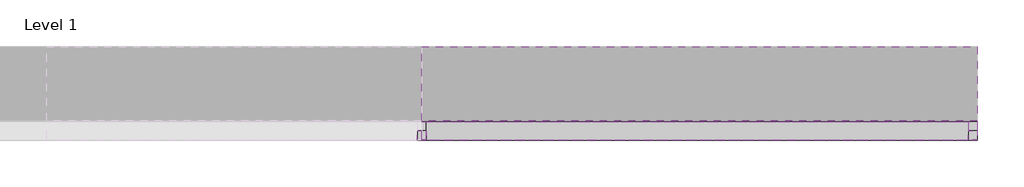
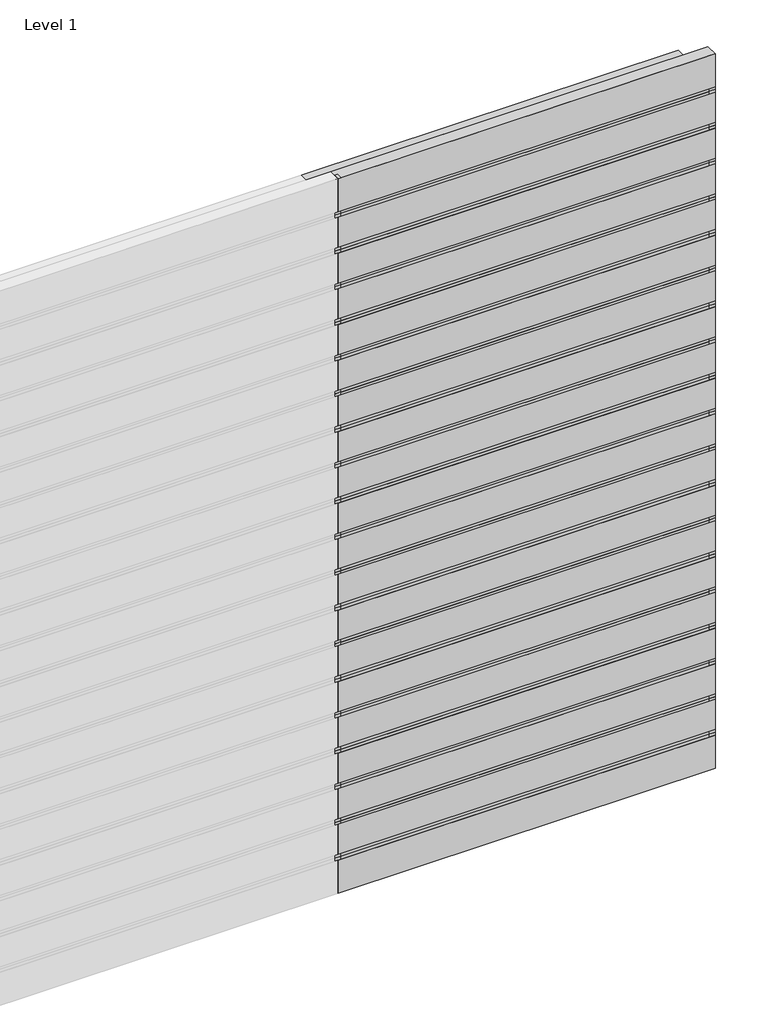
# One storey, part 2 of 2: 49 members, 40 plates.
"""IFC4 building model written with IfcOpenShell, lengths in millimetres."""

import ifcopenshell
import ifcopenshell.guid

model = None  # the IFC model being written
_history = None  # IfcOwnerHistory: only IFC2X3 demands one
_inside = {}  # id of a spatial element -> (the spatial element, [elements in it])
_under = {}  # id of a project, library or spatial element -> (it, [spatial elements below it])
_declared = {}  # id of a project -> (the project, [libraries it declares])
_typed = {}  # id of a type object -> (the type object, [elements of that type])
_made_of = {}  # id of a material, layer set ... -> (it, [elements and type objects made of it])


def new_model(schema):
    """Start an empty IFC model of exactly this schema.

    Asked for "IFC4X3", IfcOpenShell would pick the latest addendum, in which some entities
    have other attributes; the version numbers below select the first issue.
    IFC2X3 requires an IfcOwnerHistory on every rooted entity: one is made here for all.
    """
    global model, _history
    if schema == "IFC4X3":
        model = ifcopenshell.file(schema_version=(4, 3, 0, 0))
    else:
        model = ifcopenshell.file(schema=schema)
    _inside.clear()
    _under.clear()
    _declared.clear()
    _typed.clear()
    _made_of.clear()
    _history = None
    if model.schema == "IFC2X3":
        org = make("IfcOrganization", Name="unknown")
        user = make(
            "IfcPersonAndOrganization",
            ThePerson=make("IfcPerson", FamilyName="unknown"),
            TheOrganization=org,
        )
        app = make(
            "IfcApplication",
            ApplicationDeveloper=org,
            Version="unknown",
            ApplicationFullName="unknown",
            ApplicationIdentifier="unknown",
        )
        _history = make(
            "IfcOwnerHistory",
            OwningUser=user,
            OwningApplication=app,
            ChangeAction="ADDED",
            CreationDate=0,
        )
    return model


def make(cls, **values):
    """One entity of the class cls with the attributes given. An attribute that is None is left unset."""
    return model.create_entity(
        cls, **{name: value for name, value in values.items() if value is not None}
    )


def rooted(cls, **values):
    """An entity with a GlobalId (a new one), such as an element, a storey or a relation."""
    return make(cls, GlobalId=ifcopenshell.guid.new(), OwnerHistory=_history, **values)


def si_unit(unit_type, name, prefix=None):
    """IfcSIUnit, for example si_unit("LENGTHUNIT", "METRE", prefix="MILLI")."""
    return make("IfcSIUnit", UnitType=unit_type, Prefix=prefix, Name=name)


def assignment(units):
    """IfcUnitAssignment: the units of a project."""
    return None if units is None else make("IfcUnitAssignment", Units=units)


def point(xyz):
    """IfcCartesianPoint."""
    return None if xyz is None else make("IfcCartesianPoint", Coordinates=xyz)


def direction(xyz):
    """IfcDirection."""
    return None if xyz is None else make("IfcDirection", DirectionRatios=xyz)


def frame(location, z_axis=None, x_axis=None):
    """IfcAxis2Placement3D, a coordinate frame: its origin and axes. An axis left out is left unset."""
    return make(
        "IfcAxis2Placement3D",
        Location=point(location),
        Axis=direction(z_axis),
        RefDirection=direction(x_axis),
    )


def origin():
    """The frame at (0, 0, 0) with its axes left unset."""
    return frame((0.0, 0.0, 0.0))


def origin_with_axes():
    """The frame at (0, 0, 0) with the z axis (0, 0, 1) and the x axis (1, 0, 0) written out."""
    return frame((0.0, 0.0, 0.0), z_axis=(0.0, 0.0, 1.0), x_axis=(1.0, 0.0, 0.0))


def place(relative_to, where):
    """IfcLocalPlacement: puts the frame where relative to a parent placement (None: the world)."""
    return make(
        "IfcLocalPlacement", PlacementRelTo=relative_to, RelativePlacement=where
    )


def context(
    kind, dimensions, precision=None, world=None, true_north=None, identifier=None
):
    """IfcGeometricRepresentationContext, for example the 3D "Model" context."""
    return make(
        "IfcGeometricRepresentationContext",
        ContextIdentifier=identifier,
        ContextType=kind,
        CoordinateSpaceDimension=dimensions,
        Precision=precision,
        WorldCoordinateSystem=world,
        TrueNorth=true_north,
    )


def project(units=None, contexts=None):
    """IfcProject with its units and contexts."""
    return rooted(
        "IfcProject",
        Name="project",
        RepresentationContexts=contexts,
        UnitsInContext=assignment(units),
    )


def spatial(cls, under=None, at=None, **own):
    """A site, building, storey or space (cls), placed at a placement, below another one or the project."""
    s = rooted(cls, ObjectPlacement=at, **own)
    if under is not None:
        _under.setdefault(under.id(), (under, []))[1].append(s)
    return s


def polyline(points):
    """IfcPolyline through the points."""
    return make("IfcPolyline", Points=[point(p) for p in points])


def outline(outer, holes=None, kind="AREA"):
    """IfcArbitraryClosedProfileDef: a profile drawn as a closed curve; with holes, ...WithVoids."""
    if holes is None:
        return make("IfcArbitraryClosedProfileDef", ProfileType=kind, OuterCurve=outer)
    return make(
        "IfcArbitraryProfileDefWithVoids",
        ProfileType=kind,
        OuterCurve=outer,
        InnerCurves=holes,
    )


def extrude(swept, where, along, depth):
    """IfcExtrudedAreaSolid: the profile swept, set in the frame where, extruded along a direction by depth."""
    return make(
        "IfcExtrudedAreaSolid",
        SweptArea=swept,
        Position=where,
        ExtrudedDirection=direction(along),
        Depth=depth,
    )


def shape(context_of_items, identifier, shape_type, items):
    """IfcShapeRepresentation: the items that make up one representation, for example the "Body"."""
    return make(
        "IfcShapeRepresentation",
        ContextOfItems=context_of_items,
        RepresentationIdentifier=identifier,
        RepresentationType=shape_type,
        Items=items,
    )


def source(mapping_origin, context_of_items, identifier, shape_type, items):
    """IfcRepresentationMap: a shape defined once, which mapped items show again and again."""
    return make(
        "IfcRepresentationMap",
        MappingOrigin=mapping_origin,
        MappedRepresentation=shape(context_of_items, identifier, shape_type, items),
    )


def transform(
    local_origin,
    x_axis=None,
    y_axis=None,
    z_axis=None,
    scale=None,
    scale2=None,
    scale3=None,
    uniform=True,
):
    """IfcCartesianTransformationOperator3D, or its non-uniform kind. x_axis, y_axis, z_axis: its Axis1, 2, 3."""
    if uniform:
        return make(
            "IfcCartesianTransformationOperator3D",
            Axis1=direction(x_axis),
            Axis2=direction(y_axis),
            LocalOrigin=point(local_origin),
            Scale=scale,
            Axis3=direction(z_axis),
        )
    return make(
        "IfcCartesianTransformationOperator3DnonUniform",
        Axis1=direction(x_axis),
        Axis2=direction(y_axis),
        LocalOrigin=point(local_origin),
        Scale=scale,
        Axis3=direction(z_axis),
        Scale2=scale2,
        Scale3=scale3,
    )


def mapped(mapping_source, mapping_target):
    """IfcMappedItem: shows the shape of a source again, moved by a transform."""
    return make(
        "IfcMappedItem", MappingSource=mapping_source, MappingTarget=mapping_target
    )


def made_of(thing, what):
    """Note that an element or type object is made of a material, layer set ...; save() writes the relation."""
    if what is not None:
        _made_of.setdefault(what.id(), (what, []))[1].append(thing)
    return thing


def element(
    cls,
    number,
    at=None,
    inside=None,
    cuts=None,
    type_object=None,
    material=None,
    context=None,
    identifier="Body",
    shape_type=None,
    held_by="IfcProductDefinitionShape",
    body=None,
    shapes=None,
    **own,
):
    """One element of the class cls, such as IfcWall. Its Tag is "e" and its number.

    at: its placement. inside: the storey or other place that contains it. cuts: it is an
    opening in that element (IfcRelVoidsElement). A single representation is given by context,
    identifier, shape_type and body (its items); several are given by shapes. held_by: the class
    of the entity that holds the representations. save() writes the other relations.
    """
    e = rooted(cls, Tag="e%d" % number, ObjectPlacement=at, **own)
    if body is not None:
        shapes = [shape(context, identifier, shape_type, body)]
    if shapes is not None:
        e.Representation = make(held_by, Representations=shapes)
    if inside is not None:
        _inside.setdefault(inside.id(), (inside, []))[1].append(e)
    if cuts is not None:
        rooted(
            "IfcRelVoidsElement", RelatingBuildingElement=cuts, RelatedOpeningElement=e
        )
    if type_object is not None:
        _typed.setdefault(type_object.id(), (type_object, []))[1].append(e)
    return made_of(e, material)


def aggregate(whole, parts):
    """IfcRelAggregates: a whole, such as a stair, and the parts it consists of."""
    return rooted("IfcRelAggregates", RelatingObject=whole, RelatedObjects=parts)


def save(model, path):
    """Write the relations noted so far, then the file.

    IfcRelAggregates (storeys below a building ...), IfcRelContainedInSpatialStructure (elements
    in a storey), IfcRelDefinesByType, IfcRelAssociatesMaterial and IfcRelDeclares: one each for
    every whole, place, type object, material and project.
    """
    for whole, parts in _under.values():
        aggregate(whole, parts)
    for where, things in _inside.values():
        rooted(
            "IfcRelContainedInSpatialStructure",
            RelatedElements=things,
            RelatingStructure=where,
        )
    for kind, things in _typed.values():
        rooted("IfcRelDefinesByType", RelatedObjects=things, RelatingType=kind)
    for what, things in _made_of.values():
        rooted("IfcRelAssociatesMaterial", RelatedObjects=things, RelatingMaterial=what)
    for by, libraries in _declared.values():
        rooted("IfcRelDeclares", RelatingContext=by, RelatedDefinitions=libraries)
    model.write(path)


def rectangular_mullion_e1254653(model_context):
    return source(origin(), model_context, "Body", "SweptSolid", [
        extrude(outline(polyline([(-24.0, 55.0), (-24.0, 455.0), (24.0, 455.0), (24.0, 55.0), (-24.0, 55.0)])), frame((0.0, 0.0, -3000.0), z_axis=(0.0, 0.0, 1.0), x_axis=(1.0, 0.0, 0.0)), (0.0, 0.0, 1.0), 3000.0),
    ])


def rectangular_mullion_906318ec(model_context):
    return source(origin(), model_context, "Body", "SweptSolid", [
        extrude(outline(polyline([(25.0, 1.0), (25.0, -49.0), (-25.0, -49.0), (-25.0, 1.0), (25.0, 1.0)])), frame((0.0, 0.0, -300.0), z_axis=(0.0, 0.0, 1.0), x_axis=(1.0, 0.0, 0.0)), (0.0, 0.0, 1.0), 300.0),
    ])


def rectangular_mullion_d9db7a7c(model_context):
    return source(origin(), model_context, "Body", "SweptSolid", [
        extrude(outline(polyline([(-50.0, 1.0), (0.0, 1.0), (0.0, -49.0), (-50.0, -49.0), (-50.0, 1.0)])), frame((0.0, 0.0, -300.0), z_axis=(0.0, 0.0, 1.0), x_axis=(1.0, 0.0, 0.0)), (0.0, 0.0, 1.0), 300.0),
    ])


def empty_system_panel_empty_3beb369f(model_context):
    return source(origin(), model_context, "Body", "SweptSolid", [
        extrude(outline(polyline([(1500.0, -50.0), (-1500.0, -50.0), (-1500.0, 50.0), (1500.0, 50.0), (1500.0, -50.0)])), origin_with_axes(), (0.0, 0.0, 1.0), 276.0),
    ])


def empty_system_panel_empty_3b3bfbe1(model_context):
    return source(origin(), model_context, "Body", "SweptSolid", [
        extrude(outline(polyline([(1500.0, -50.0), (-1500.0, -50.0), (-1500.0, 50.0), (1500.0, 50.0), (1500.0, -50.0)])), origin_with_axes(), (0.0, 0.0, 1.0), 252.0),
    ])


def empty_system_panel_empty_080f249c(model_context):
    return source(origin(), model_context, "Body", "SweptSolid", [
        extrude(outline(polyline([(1462.5, -50.0), (-1462.5, -50.0), (-1462.5, 50.0), (1462.5, 50.0), (1462.5, -50.0)])), origin_with_axes(), (0.0, 0.0, 1.0), 300.0),
    ])


model = new_model("IFC4")

# Units and contexts
model_context = context("Model", 3, world=origin())
ifc_project = project(units=[si_unit("LENGTHUNIT", "METRE", prefix="MILLI")], contexts=[model_context])

# Site, building, storey
site = spatial("IfcSite", under=ifc_project)
building = spatial("IfcBuilding", under=site)
storey = spatial("IfcBuildingStorey", under=building, Name="Level 1", Elevation=0.0)

# Members
placement = place(None, origin())
rectangular_mullion_shape = rectangular_mullion_e1254653(model_context)
element("IfcMember", 1, ObjectType="Rectangular Mullion : RSen_21_CWM_blade - cubic 400 - 0°_gen_duco projects", at=placement, inside=storey, context=model_context, shape_type="MappedRepresentation", body=[
    mapped(rectangular_mullion_shape, transform((3000.0, 3000.0, 3300.0), x_axis=(0.0, 0.0, 1.0), y_axis=(0.0, 1.0, 0.0), z_axis=(-1.0, 0.0, 0.0))),
])
element("IfcMember", 2, ObjectType="Rectangular Mullion : RSen_21_CWM_blade - cubic 400 - 0°_gen_duco projects", at=placement, inside=storey, context=model_context, shape_type="MappedRepresentation", body=[
    mapped(rectangular_mullion_shape, transform((3000.0, 3000.0, 3600.0), x_axis=(0.0, 0.0, 1.0), y_axis=(0.0, 1.0, 0.0), z_axis=(-1.0, 0.0, 0.0))),
])
element("IfcMember", 3, ObjectType="Rectangular Mullion : RSen_21_CWM_blade - cubic 400 - 0°_gen_duco projects", at=placement, inside=storey, context=model_context, shape_type="MappedRepresentation", body=[
    mapped(rectangular_mullion_shape, transform((3000.0, 3000.0, 3900.0), x_axis=(0.0, 0.0, 1.0), y_axis=(0.0, 1.0, 0.0), z_axis=(-1.0, 0.0, 0.0))),
])
element("IfcMember", 4, ObjectType="Rectangular Mullion : RSen_21_CWM_blade - cubic 400 - 0°_gen_duco projects", at=placement, inside=storey, context=model_context, shape_type="MappedRepresentation", body=[
    mapped(rectangular_mullion_shape, transform((3000.0, 3000.0, 4200.0), x_axis=(0.0, 0.0, 1.0), y_axis=(0.0, 1.0, 0.0), z_axis=(-1.0, 0.0, 0.0))),
])
element("IfcMember", 5, ObjectType="Rectangular Mullion : RSen_21_CWM_blade - cubic 400 - 0°_gen_duco projects", at=placement, inside=storey, context=model_context, shape_type="MappedRepresentation", body=[
    mapped(rectangular_mullion_shape, transform((3000.0, 3000.0, 4500.0), x_axis=(0.0, 0.0, 1.0), y_axis=(0.0, 1.0, 0.0), z_axis=(-1.0, 0.0, 0.0))),
])
element("IfcMember", 6, ObjectType="Rectangular Mullion : RSen_21_CWM_blade - cubic 400 - 0°_gen_duco projects", at=placement, inside=storey, context=model_context, shape_type="MappedRepresentation", body=[
    mapped(rectangular_mullion_shape, transform((3000.0, 3000.0, 4800.0), x_axis=(0.0, 0.0, 1.0), y_axis=(0.0, 1.0, 0.0), z_axis=(-1.0, 0.0, 0.0))),
])
element("IfcMember", 7, ObjectType="Rectangular Mullion : RSen_21_CWM_blade - cubic 400 - 0°_gen_duco projects", at=placement, inside=storey, context=model_context, shape_type="MappedRepresentation", body=[
    mapped(rectangular_mullion_shape, transform((3000.0, 3000.0, 5100.0), x_axis=(0.0, 0.0, 1.0), y_axis=(0.0, 1.0, 0.0), z_axis=(-1.0, 0.0, 0.0))),
])
element("IfcMember", 8, ObjectType="Rectangular Mullion : RSen_21_CWM_blade - cubic 400 - 0°_gen_duco projects", at=placement, inside=storey, context=model_context, shape_type="MappedRepresentation", body=[
    mapped(rectangular_mullion_shape, transform((3000.0, 3000.0, 5400.0), x_axis=(0.0, 0.0, 1.0), y_axis=(0.0, 1.0, 0.0), z_axis=(-1.0, 0.0, 0.0))),
])
element("IfcMember", 9, ObjectType="Rectangular Mullion : RSen_21_CWM_blade - cubic 400 - 0°_gen_duco projects", at=placement, inside=storey, context=model_context, shape_type="MappedRepresentation", body=[
    mapped(rectangular_mullion_shape, transform((3000.0, 3000.0, 5700.0), x_axis=(0.0, 0.0, 1.0), y_axis=(0.0, 1.0, 0.0), z_axis=(-1.0, 0.0, 0.0))),
])
rectangular_mullion_2_shape = rectangular_mullion_906318ec(model_context)
element("IfcMember", 10, ObjectType="Rectangular Mullion : RSen_21_CWM_support profile 50x50_gen_duco projects", at=placement, inside=storey, context=model_context, shape_type="MappedRepresentation", body=[
    mapped(rectangular_mullion_2_shape, transform((3000.0, 3000.0, 0.0), x_axis=(-1.0, 0.0, 0.0), y_axis=(0.0, 1.0, 0.0), z_axis=(0.0, 0.0, -1.0))),
])
element("IfcMember", 11, ObjectType="Rectangular Mullion : RSen_21_CWM_support profile 50x50_gen_duco projects", at=placement, inside=storey, context=model_context, shape_type="MappedRepresentation", body=[
    mapped(rectangular_mullion_2_shape, transform((3000.0, 3000.0, 300.0), x_axis=(-1.0, 0.0, 0.0), y_axis=(0.0, 1.0, 0.0), z_axis=(0.0, 0.0, -1.0))),
])
element("IfcMember", 12, ObjectType="Rectangular Mullion : RSen_21_CWM_support profile 50x50_gen_duco projects", at=placement, inside=storey, context=model_context, shape_type="MappedRepresentation", body=[
    mapped(rectangular_mullion_2_shape, transform((3000.0, 3000.0, 600.0), x_axis=(-1.0, 0.0, 0.0), y_axis=(0.0, 1.0, 0.0), z_axis=(0.0, 0.0, -1.0))),
])
element("IfcMember", 13, ObjectType="Rectangular Mullion : RSen_21_CWM_support profile 50x50_gen_duco projects", at=placement, inside=storey, context=model_context, shape_type="MappedRepresentation", body=[
    mapped(rectangular_mullion_2_shape, transform((3000.0, 3000.0, 900.0), x_axis=(-1.0, 0.0, 0.0), y_axis=(0.0, 1.0, 0.0), z_axis=(0.0, 0.0, -1.0))),
])
element("IfcMember", 14, ObjectType="Rectangular Mullion : RSen_21_CWM_support profile 50x50_gen_duco projects", at=placement, inside=storey, context=model_context, shape_type="MappedRepresentation", body=[
    mapped(rectangular_mullion_2_shape, transform((3000.0, 3000.0, 1200.0), x_axis=(-1.0, 0.0, 0.0), y_axis=(0.0, 1.0, 0.0), z_axis=(0.0, 0.0, -1.0))),
])
element("IfcMember", 15, ObjectType="Rectangular Mullion : RSen_21_CWM_support profile 50x50_gen_duco projects", at=placement, inside=storey, context=model_context, shape_type="MappedRepresentation", body=[
    mapped(rectangular_mullion_2_shape, transform((3000.0, 3000.0, 1500.0), x_axis=(-1.0, 0.0, 0.0), y_axis=(0.0, 1.0, 0.0), z_axis=(0.0, 0.0, -1.0))),
])
element("IfcMember", 16, ObjectType="Rectangular Mullion : RSen_21_CWM_support profile 50x50_gen_duco projects", at=placement, inside=storey, context=model_context, shape_type="MappedRepresentation", body=[
    mapped(rectangular_mullion_2_shape, transform((3000.0, 3000.0, 1800.0), x_axis=(-1.0, 0.0, 0.0), y_axis=(0.0, 1.0, 0.0), z_axis=(0.0, 0.0, -1.0))),
])
element("IfcMember", 17, ObjectType="Rectangular Mullion : RSen_21_CWM_support profile 50x50_gen_duco projects", at=placement, inside=storey, context=model_context, shape_type="MappedRepresentation", body=[
    mapped(rectangular_mullion_2_shape, transform((3000.0, 3000.0, 2100.0), x_axis=(-1.0, 0.0, 0.0), y_axis=(0.0, 1.0, 0.0), z_axis=(0.0, 0.0, -1.0))),
])
element("IfcMember", 18, ObjectType="Rectangular Mullion : RSen_21_CWM_support profile 50x50_gen_duco projects", at=placement, inside=storey, context=model_context, shape_type="MappedRepresentation", body=[
    mapped(rectangular_mullion_2_shape, transform((3000.0, 3000.0, 2400.0), x_axis=(-1.0, 0.0, 0.0), y_axis=(0.0, 1.0, 0.0), z_axis=(0.0, 0.0, -1.0))),
])
element("IfcMember", 19, ObjectType="Rectangular Mullion : RSen_21_CWM_support profile 50x50_gen_duco projects", at=placement, inside=storey, context=model_context, shape_type="MappedRepresentation", body=[
    mapped(rectangular_mullion_2_shape, transform((3000.0, 3000.0, 2700.0), x_axis=(-1.0, 0.0, 0.0), y_axis=(0.0, 1.0, 0.0), z_axis=(0.0, 0.0, -1.0))),
])
element("IfcMember", 20, ObjectType="Rectangular Mullion : RSen_21_CWM_support profile 50x50_gen_duco projects", at=placement, inside=storey, context=model_context, shape_type="MappedRepresentation", body=[
    mapped(rectangular_mullion_2_shape, transform((3000.0, 3000.0, 3000.0), x_axis=(-1.0, 0.0, 0.0), y_axis=(0.0, 1.0, 0.0), z_axis=(0.0, 0.0, -1.0))),
])
element("IfcMember", 21, ObjectType="Rectangular Mullion : RSen_21_CWM_support profile 50x50_gen_duco projects", at=placement, inside=storey, context=model_context, shape_type="MappedRepresentation", body=[
    mapped(rectangular_mullion_2_shape, transform((3000.0, 3000.0, 3300.0), x_axis=(-1.0, 0.0, 0.0), y_axis=(0.0, 1.0, 0.0), z_axis=(0.0, 0.0, -1.0))),
])
element("IfcMember", 22, ObjectType="Rectangular Mullion : RSen_21_CWM_support profile 50x50_gen_duco projects", at=placement, inside=storey, context=model_context, shape_type="MappedRepresentation", body=[
    mapped(rectangular_mullion_2_shape, transform((3000.0, 3000.0, 3600.0), x_axis=(-1.0, 0.0, 0.0), y_axis=(0.0, 1.0, 0.0), z_axis=(0.0, 0.0, -1.0))),
])
element("IfcMember", 23, ObjectType="Rectangular Mullion : RSen_21_CWM_support profile 50x50_gen_duco projects", at=placement, inside=storey, context=model_context, shape_type="MappedRepresentation", body=[
    mapped(rectangular_mullion_2_shape, transform((3000.0, 3000.0, 3900.0), x_axis=(-1.0, 0.0, 0.0), y_axis=(0.0, 1.0, 0.0), z_axis=(0.0, 0.0, -1.0))),
])
element("IfcMember", 24, ObjectType="Rectangular Mullion : RSen_21_CWM_support profile 50x50_gen_duco projects", at=placement, inside=storey, context=model_context, shape_type="MappedRepresentation", body=[
    mapped(rectangular_mullion_2_shape, transform((3000.0, 3000.0, 4200.0), x_axis=(-1.0, 0.0, 0.0), y_axis=(0.0, 1.0, 0.0), z_axis=(0.0, 0.0, -1.0))),
])
element("IfcMember", 25, ObjectType="Rectangular Mullion : RSen_21_CWM_support profile 50x50_gen_duco projects", at=placement, inside=storey, context=model_context, shape_type="MappedRepresentation", body=[
    mapped(rectangular_mullion_2_shape, transform((3000.0, 3000.0, 4500.0), x_axis=(-1.0, 0.0, 0.0), y_axis=(0.0, 1.0, 0.0), z_axis=(0.0, 0.0, -1.0))),
])
element("IfcMember", 26, ObjectType="Rectangular Mullion : RSen_21_CWM_support profile 50x50_gen_duco projects", at=placement, inside=storey, context=model_context, shape_type="MappedRepresentation", body=[
    mapped(rectangular_mullion_2_shape, transform((3000.0, 3000.0, 4800.0), x_axis=(-1.0, 0.0, 0.0), y_axis=(0.0, 1.0, 0.0), z_axis=(0.0, 0.0, -1.0))),
])
element("IfcMember", 27, ObjectType="Rectangular Mullion : RSen_21_CWM_support profile 50x50_gen_duco projects", at=placement, inside=storey, context=model_context, shape_type="MappedRepresentation", body=[
    mapped(rectangular_mullion_2_shape, transform((3000.0, 3000.0, 5100.0), x_axis=(-1.0, 0.0, 0.0), y_axis=(0.0, 1.0, 0.0), z_axis=(0.0, 0.0, -1.0))),
])
element("IfcMember", 28, ObjectType="Rectangular Mullion : RSen_21_CWM_support profile 50x50_gen_duco projects", at=placement, inside=storey, context=model_context, shape_type="MappedRepresentation", body=[
    mapped(rectangular_mullion_2_shape, transform((3000.0, 3000.0, 5400.0), x_axis=(-1.0, 0.0, 0.0), y_axis=(0.0, 1.0, 0.0), z_axis=(0.0, 0.0, -1.0))),
])
element("IfcMember", 29, ObjectType="Rectangular Mullion : RSen_21_CWM_support profile 50x50_gen_duco projects", at=placement, inside=storey, context=model_context, shape_type="MappedRepresentation", body=[
    mapped(rectangular_mullion_2_shape, transform((3000.0, 3000.0, 5700.0), x_axis=(-1.0, 0.0, 0.0), y_axis=(0.0, 1.0, 0.0), z_axis=(0.0, 0.0, -1.0))),
])
rectangular_mullion_3_shape = rectangular_mullion_d9db7a7c(model_context)
element("IfcMember", 30, ObjectType="Rectangular Mullion : RSen_21_CWM_support profile 50x50 - right_gen_duco projects", at=placement, inside=storey, context=model_context, shape_type="MappedRepresentation", body=[
    mapped(rectangular_mullion_3_shape, transform((6000.0, 3000.0, 6000.0), x_axis=(1.0, 0.0, 0.0), y_axis=(0.0, 1.0, 0.0), z_axis=(0.0, 0.0, 1.0))),
])
element("IfcMember", 31, ObjectType="Rectangular Mullion : RSen_21_CWM_support profile 50x50 - right_gen_duco projects", at=placement, inside=storey, context=model_context, shape_type="MappedRepresentation", body=[
    mapped(rectangular_mullion_3_shape, transform((6000.0, 3000.0, 300.0), x_axis=(1.0, 0.0, 0.0), y_axis=(0.0, 1.0, 0.0), z_axis=(0.0, 0.0, 1.0))),
])
element("IfcMember", 32, ObjectType="Rectangular Mullion : RSen_21_CWM_support profile 50x50 - right_gen_duco projects", at=placement, inside=storey, context=model_context, shape_type="MappedRepresentation", body=[
    mapped(rectangular_mullion_3_shape, transform((6000.0, 3000.0, 600.0), x_axis=(1.0, 0.0, 0.0), y_axis=(0.0, 1.0, 0.0), z_axis=(0.0, 0.0, 1.0))),
])
element("IfcMember", 33, ObjectType="Rectangular Mullion : RSen_21_CWM_support profile 50x50 - right_gen_duco projects", at=placement, inside=storey, context=model_context, shape_type="MappedRepresentation", body=[
    mapped(rectangular_mullion_3_shape, transform((6000.0, 3000.0, 900.0), x_axis=(1.0, 0.0, 0.0), y_axis=(0.0, 1.0, 0.0), z_axis=(0.0, 0.0, 1.0))),
])
element("IfcMember", 34, ObjectType="Rectangular Mullion : RSen_21_CWM_support profile 50x50 - right_gen_duco projects", at=placement, inside=storey, context=model_context, shape_type="MappedRepresentation", body=[
    mapped(rectangular_mullion_3_shape, transform((6000.0, 3000.0, 1200.0), x_axis=(1.0, 0.0, 0.0), y_axis=(0.0, 1.0, 0.0), z_axis=(0.0, 0.0, 1.0))),
])
element("IfcMember", 35, ObjectType="Rectangular Mullion : RSen_21_CWM_support profile 50x50 - right_gen_duco projects", at=placement, inside=storey, context=model_context, shape_type="MappedRepresentation", body=[
    mapped(rectangular_mullion_3_shape, transform((6000.0, 3000.0, 1500.0), x_axis=(1.0, 0.0, 0.0), y_axis=(0.0, 1.0, 0.0), z_axis=(0.0, 0.0, 1.0))),
])
element("IfcMember", 36, ObjectType="Rectangular Mullion : RSen_21_CWM_support profile 50x50 - right_gen_duco projects", at=placement, inside=storey, context=model_context, shape_type="MappedRepresentation", body=[
    mapped(rectangular_mullion_3_shape, transform((6000.0, 3000.0, 1800.0), x_axis=(1.0, 0.0, 0.0), y_axis=(0.0, 1.0, 0.0), z_axis=(0.0, 0.0, 1.0))),
])
element("IfcMember", 37, ObjectType="Rectangular Mullion : RSen_21_CWM_support profile 50x50 - right_gen_duco projects", at=placement, inside=storey, context=model_context, shape_type="MappedRepresentation", body=[
    mapped(rectangular_mullion_3_shape, transform((6000.0, 3000.0, 2100.0), x_axis=(1.0, 0.0, 0.0), y_axis=(0.0, 1.0, 0.0), z_axis=(0.0, 0.0, 1.0))),
])
element("IfcMember", 38, ObjectType="Rectangular Mullion : RSen_21_CWM_support profile 50x50 - right_gen_duco projects", at=placement, inside=storey, context=model_context, shape_type="MappedRepresentation", body=[
    mapped(rectangular_mullion_3_shape, transform((6000.0, 3000.0, 2400.0), x_axis=(1.0, 0.0, 0.0), y_axis=(0.0, 1.0, 0.0), z_axis=(0.0, 0.0, 1.0))),
])
element("IfcMember", 39, ObjectType="Rectangular Mullion : RSen_21_CWM_support profile 50x50 - right_gen_duco projects", at=placement, inside=storey, context=model_context, shape_type="MappedRepresentation", body=[
    mapped(rectangular_mullion_3_shape, transform((6000.0, 3000.0, 2700.0), x_axis=(1.0, 0.0, 0.0), y_axis=(0.0, 1.0, 0.0), z_axis=(0.0, 0.0, 1.0))),
])
element("IfcMember", 40, ObjectType="Rectangular Mullion : RSen_21_CWM_support profile 50x50 - right_gen_duco projects", at=placement, inside=storey, context=model_context, shape_type="MappedRepresentation", body=[
    mapped(rectangular_mullion_3_shape, transform((6000.0, 3000.0, 3000.0), x_axis=(1.0, 0.0, 0.0), y_axis=(0.0, 1.0, 0.0), z_axis=(0.0, 0.0, 1.0))),
])
element("IfcMember", 41, ObjectType="Rectangular Mullion : RSen_21_CWM_support profile 50x50 - right_gen_duco projects", at=placement, inside=storey, context=model_context, shape_type="MappedRepresentation", body=[
    mapped(rectangular_mullion_3_shape, transform((6000.0, 3000.0, 3300.0), x_axis=(1.0, 0.0, 0.0), y_axis=(0.0, 1.0, 0.0), z_axis=(0.0, 0.0, 1.0))),
])
element("IfcMember", 42, ObjectType="Rectangular Mullion : RSen_21_CWM_support profile 50x50 - right_gen_duco projects", at=placement, inside=storey, context=model_context, shape_type="MappedRepresentation", body=[
    mapped(rectangular_mullion_3_shape, transform((6000.0, 3000.0, 3600.0), x_axis=(1.0, 0.0, 0.0), y_axis=(0.0, 1.0, 0.0), z_axis=(0.0, 0.0, 1.0))),
])
element("IfcMember", 43, ObjectType="Rectangular Mullion : RSen_21_CWM_support profile 50x50 - right_gen_duco projects", at=placement, inside=storey, context=model_context, shape_type="MappedRepresentation", body=[
    mapped(rectangular_mullion_3_shape, transform((6000.0, 3000.0, 3900.0), x_axis=(1.0, 0.0, 0.0), y_axis=(0.0, 1.0, 0.0), z_axis=(0.0, 0.0, 1.0))),
])
element("IfcMember", 44, ObjectType="Rectangular Mullion : RSen_21_CWM_support profile 50x50 - right_gen_duco projects", at=placement, inside=storey, context=model_context, shape_type="MappedRepresentation", body=[
    mapped(rectangular_mullion_3_shape, transform((6000.0, 3000.0, 4200.0), x_axis=(1.0, 0.0, 0.0), y_axis=(0.0, 1.0, 0.0), z_axis=(0.0, 0.0, 1.0))),
])
element("IfcMember", 45, ObjectType="Rectangular Mullion : RSen_21_CWM_support profile 50x50 - right_gen_duco projects", at=placement, inside=storey, context=model_context, shape_type="MappedRepresentation", body=[
    mapped(rectangular_mullion_3_shape, transform((6000.0, 3000.0, 4500.0), x_axis=(1.0, 0.0, 0.0), y_axis=(0.0, 1.0, 0.0), z_axis=(0.0, 0.0, 1.0))),
])
element("IfcMember", 46, ObjectType="Rectangular Mullion : RSen_21_CWM_support profile 50x50 - right_gen_duco projects", at=placement, inside=storey, context=model_context, shape_type="MappedRepresentation", body=[
    mapped(rectangular_mullion_3_shape, transform((6000.0, 3000.0, 4800.0), x_axis=(1.0, 0.0, 0.0), y_axis=(0.0, 1.0, 0.0), z_axis=(0.0, 0.0, 1.0))),
])
element("IfcMember", 47, ObjectType="Rectangular Mullion : RSen_21_CWM_support profile 50x50 - right_gen_duco projects", at=placement, inside=storey, context=model_context, shape_type="MappedRepresentation", body=[
    mapped(rectangular_mullion_3_shape, transform((6000.0, 3000.0, 5100.0), x_axis=(1.0, 0.0, 0.0), y_axis=(0.0, 1.0, 0.0), z_axis=(0.0, 0.0, 1.0))),
])
element("IfcMember", 48, ObjectType="Rectangular Mullion : RSen_21_CWM_support profile 50x50 - right_gen_duco projects", at=placement, inside=storey, context=model_context, shape_type="MappedRepresentation", body=[
    mapped(rectangular_mullion_3_shape, transform((6000.0, 3000.0, 5400.0), x_axis=(1.0, 0.0, 0.0), y_axis=(0.0, 1.0, 0.0), z_axis=(0.0, 0.0, 1.0))),
])
element("IfcMember", 49, ObjectType="Rectangular Mullion : RSen_21_CWM_support profile 50x50 - right_gen_duco projects", at=placement, inside=storey, context=model_context, shape_type="MappedRepresentation", body=[
    mapped(rectangular_mullion_3_shape, transform((6000.0, 3000.0, 5700.0), x_axis=(1.0, 0.0, 0.0), y_axis=(0.0, 1.0, 0.0), z_axis=(0.0, 0.0, 1.0))),
])

# Plates
empty_system_panel_empty_shape = empty_system_panel_empty_3beb369f(model_context)
element("IfcPlate", 50, ObjectType="Empty System Panel : Empty", at=placement, inside=storey, context=model_context, shape_type="MappedRepresentation", body=[
    mapped(empty_system_panel_empty_shape, transform((4500.0, 3000.0, 0.0), x_axis=(-1.0, 0.0, 0.0), y_axis=(0.0, -1.0, 0.0), z_axis=(0.0, 0.0, 1.0))),
])
element("IfcPlate", 51, ObjectType="Empty System Panel : Empty", at=placement, inside=storey, context=model_context, shape_type="MappedRepresentation", body=[
    mapped(empty_system_panel_empty_shape, transform((4500.0, 3000.0, 5724.0), x_axis=(-1.0, 0.0, 0.0), y_axis=(0.0, -1.0, 0.0), z_axis=(0.0, 0.0, 1.0))),
])
empty_system_panel_empty_2_shape = empty_system_panel_empty_3b3bfbe1(model_context)
element("IfcPlate", 52, ObjectType="Empty System Panel : Empty", at=placement, inside=storey, context=model_context, shape_type="MappedRepresentation", body=[
    mapped(empty_system_panel_empty_2_shape, transform((4500.0, 3000.0, 324.0), x_axis=(-1.0, 0.0, 0.0), y_axis=(0.0, -1.0, 0.0), z_axis=(0.0, 0.0, 1.0))),
])
element("IfcPlate", 53, ObjectType="Empty System Panel : Empty", at=placement, inside=storey, context=model_context, shape_type="MappedRepresentation", body=[
    mapped(empty_system_panel_empty_2_shape, transform((4500.0, 3000.0, 624.0), x_axis=(-1.0, 0.0, 0.0), y_axis=(0.0, -1.0, 0.0), z_axis=(0.0, 0.0, 1.0))),
])
element("IfcPlate", 54, ObjectType="Empty System Panel : Empty", at=placement, inside=storey, context=model_context, shape_type="MappedRepresentation", body=[
    mapped(empty_system_panel_empty_2_shape, transform((4500.0, 3000.0, 924.0), x_axis=(-1.0, 0.0, 0.0), y_axis=(0.0, -1.0, 0.0), z_axis=(0.0, 0.0, 1.0))),
])
element("IfcPlate", 55, ObjectType="Empty System Panel : Empty", at=placement, inside=storey, context=model_context, shape_type="MappedRepresentation", body=[
    mapped(empty_system_panel_empty_2_shape, transform((4500.0, 3000.0, 1224.0), x_axis=(-1.0, 0.0, 0.0), y_axis=(0.0, -1.0, 0.0), z_axis=(0.0, 0.0, 1.0))),
])
element("IfcPlate", 56, ObjectType="Empty System Panel : Empty", at=placement, inside=storey, context=model_context, shape_type="MappedRepresentation", body=[
    mapped(empty_system_panel_empty_2_shape, transform((4500.0, 3000.0, 1524.0), x_axis=(-1.0, 0.0, 0.0), y_axis=(0.0, -1.0, 0.0), z_axis=(0.0, 0.0, 1.0))),
])
element("IfcPlate", 57, ObjectType="Empty System Panel : Empty", at=placement, inside=storey, context=model_context, shape_type="MappedRepresentation", body=[
    mapped(empty_system_panel_empty_2_shape, transform((4500.0, 3000.0, 1824.0), x_axis=(-1.0, 0.0, 0.0), y_axis=(0.0, -1.0, 0.0), z_axis=(0.0, 0.0, 1.0))),
])
element("IfcPlate", 58, ObjectType="Empty System Panel : Empty", at=placement, inside=storey, context=model_context, shape_type="MappedRepresentation", body=[
    mapped(empty_system_panel_empty_2_shape, transform((4500.0, 3000.0, 2124.0), x_axis=(-1.0, 0.0, 0.0), y_axis=(0.0, -1.0, 0.0), z_axis=(0.0, 0.0, 1.0))),
])
element("IfcPlate", 59, ObjectType="Empty System Panel : Empty", at=placement, inside=storey, context=model_context, shape_type="MappedRepresentation", body=[
    mapped(empty_system_panel_empty_2_shape, transform((4500.0, 3000.0, 2424.0), x_axis=(-1.0, 0.0, 0.0), y_axis=(0.0, -1.0, 0.0), z_axis=(0.0, 0.0, 1.0))),
])
element("IfcPlate", 60, ObjectType="Empty System Panel : Empty", at=placement, inside=storey, context=model_context, shape_type="MappedRepresentation", body=[
    mapped(empty_system_panel_empty_2_shape, transform((4500.0, 3000.0, 2724.0), x_axis=(-1.0, 0.0, 0.0), y_axis=(0.0, -1.0, 0.0), z_axis=(0.0, 0.0, 1.0))),
])
element("IfcPlate", 61, ObjectType="Empty System Panel : Empty", at=placement, inside=storey, context=model_context, shape_type="MappedRepresentation", body=[
    mapped(empty_system_panel_empty_2_shape, transform((4500.0, 3000.0, 3024.0), x_axis=(-1.0, 0.0, 0.0), y_axis=(0.0, -1.0, 0.0), z_axis=(0.0, 0.0, 1.0))),
])
element("IfcPlate", 62, ObjectType="Empty System Panel : Empty", at=placement, inside=storey, context=model_context, shape_type="MappedRepresentation", body=[
    mapped(empty_system_panel_empty_2_shape, transform((4500.0, 3000.0, 3324.0), x_axis=(-1.0, 0.0, 0.0), y_axis=(0.0, -1.0, 0.0), z_axis=(0.0, 0.0, 1.0))),
])
element("IfcPlate", 63, ObjectType="Empty System Panel : Empty", at=placement, inside=storey, context=model_context, shape_type="MappedRepresentation", body=[
    mapped(empty_system_panel_empty_2_shape, transform((4500.0, 3000.0, 3624.0), x_axis=(-1.0, 0.0, 0.0), y_axis=(0.0, -1.0, 0.0), z_axis=(0.0, 0.0, 1.0))),
])
element("IfcPlate", 64, ObjectType="Empty System Panel : Empty", at=placement, inside=storey, context=model_context, shape_type="MappedRepresentation", body=[
    mapped(empty_system_panel_empty_2_shape, transform((4500.0, 3000.0, 3924.0), x_axis=(-1.0, 0.0, 0.0), y_axis=(0.0, -1.0, 0.0), z_axis=(0.0, 0.0, 1.0))),
])
element("IfcPlate", 65, ObjectType="Empty System Panel : Empty", at=placement, inside=storey, context=model_context, shape_type="MappedRepresentation", body=[
    mapped(empty_system_panel_empty_2_shape, transform((4500.0, 3000.0, 4224.0), x_axis=(-1.0, 0.0, 0.0), y_axis=(0.0, -1.0, 0.0), z_axis=(0.0, 0.0, 1.0))),
])
element("IfcPlate", 66, ObjectType="Empty System Panel : Empty", at=placement, inside=storey, context=model_context, shape_type="MappedRepresentation", body=[
    mapped(empty_system_panel_empty_2_shape, transform((4500.0, 3000.0, 4524.0), x_axis=(-1.0, 0.0, 0.0), y_axis=(0.0, -1.0, 0.0), z_axis=(0.0, 0.0, 1.0))),
])
element("IfcPlate", 67, ObjectType="Empty System Panel : Empty", at=placement, inside=storey, context=model_context, shape_type="MappedRepresentation", body=[
    mapped(empty_system_panel_empty_2_shape, transform((4500.0, 3000.0, 4824.0), x_axis=(-1.0, 0.0, 0.0), y_axis=(0.0, -1.0, 0.0), z_axis=(0.0, 0.0, 1.0))),
])
element("IfcPlate", 68, ObjectType="Empty System Panel : Empty", at=placement, inside=storey, context=model_context, shape_type="MappedRepresentation", body=[
    mapped(empty_system_panel_empty_2_shape, transform((4500.0, 3000.0, 5124.0), x_axis=(-1.0, 0.0, 0.0), y_axis=(0.0, -1.0, 0.0), z_axis=(0.0, 0.0, 1.0))),
])
element("IfcPlate", 69, ObjectType="Empty System Panel : Empty", at=placement, inside=storey, context=model_context, shape_type="MappedRepresentation", body=[
    mapped(empty_system_panel_empty_2_shape, transform((4500.0, 3000.0, 5424.0), x_axis=(-1.0, 0.0, 0.0), y_axis=(0.0, -1.0, 0.0), z_axis=(0.0, 0.0, 1.0))),
])
empty_system_panel_empty_3_shape = empty_system_panel_empty_080f249c(model_context)
element("IfcPlate", 70, ObjectType="Empty System Panel : Empty", at=placement, inside=storey, context=model_context, shape_type="MappedRepresentation", body=[
    mapped(empty_system_panel_empty_3_shape, transform((4487.5, 3000.0, 0.0), x_axis=(-1.0, 0.0, 0.0), y_axis=(0.0, -1.0, 0.0), z_axis=(0.0, 0.0, 1.0))),
])
element("IfcPlate", 71, ObjectType="Empty System Panel : Empty", at=placement, inside=storey, context=model_context, shape_type="MappedRepresentation", body=[
    mapped(empty_system_panel_empty_3_shape, transform((4487.5, 3000.0, 300.0), x_axis=(-1.0, 0.0, 0.0), y_axis=(0.0, -1.0, 0.0), z_axis=(0.0, 0.0, 1.0))),
])
element("IfcPlate", 72, ObjectType="Empty System Panel : Empty", at=placement, inside=storey, context=model_context, shape_type="MappedRepresentation", body=[
    mapped(empty_system_panel_empty_3_shape, transform((4487.5, 3000.0, 600.0), x_axis=(-1.0, 0.0, 0.0), y_axis=(0.0, -1.0, 0.0), z_axis=(0.0, 0.0, 1.0))),
])
element("IfcPlate", 73, ObjectType="Empty System Panel : Empty", at=placement, inside=storey, context=model_context, shape_type="MappedRepresentation", body=[
    mapped(empty_system_panel_empty_3_shape, transform((4487.5, 3000.0, 900.0), x_axis=(-1.0, 0.0, 0.0), y_axis=(0.0, -1.0, 0.0), z_axis=(0.0, 0.0, 1.0))),
])
element("IfcPlate", 74, ObjectType="Empty System Panel : Empty", at=placement, inside=storey, context=model_context, shape_type="MappedRepresentation", body=[
    mapped(empty_system_panel_empty_3_shape, transform((4487.5, 3000.0, 1200.0), x_axis=(-1.0, 0.0, 0.0), y_axis=(0.0, -1.0, 0.0), z_axis=(0.0, 0.0, 1.0))),
])
element("IfcPlate", 75, ObjectType="Empty System Panel : Empty", at=placement, inside=storey, context=model_context, shape_type="MappedRepresentation", body=[
    mapped(empty_system_panel_empty_3_shape, transform((4487.5, 3000.0, 1500.0), x_axis=(-1.0, 0.0, 0.0), y_axis=(0.0, -1.0, 0.0), z_axis=(0.0, 0.0, 1.0))),
])
element("IfcPlate", 76, ObjectType="Empty System Panel : Empty", at=placement, inside=storey, context=model_context, shape_type="MappedRepresentation", body=[
    mapped(empty_system_panel_empty_3_shape, transform((4487.5, 3000.0, 1800.0), x_axis=(-1.0, 0.0, 0.0), y_axis=(0.0, -1.0, 0.0), z_axis=(0.0, 0.0, 1.0))),
])
element("IfcPlate", 77, ObjectType="Empty System Panel : Empty", at=placement, inside=storey, context=model_context, shape_type="MappedRepresentation", body=[
    mapped(empty_system_panel_empty_3_shape, transform((4487.5, 3000.0, 2100.0), x_axis=(-1.0, 0.0, 0.0), y_axis=(0.0, -1.0, 0.0), z_axis=(0.0, 0.0, 1.0))),
])
element("IfcPlate", 78, ObjectType="Empty System Panel : Empty", at=placement, inside=storey, context=model_context, shape_type="MappedRepresentation", body=[
    mapped(empty_system_panel_empty_3_shape, transform((4487.5, 3000.0, 2400.0), x_axis=(-1.0, 0.0, 0.0), y_axis=(0.0, -1.0, 0.0), z_axis=(0.0, 0.0, 1.0))),
])
element("IfcPlate", 79, ObjectType="Empty System Panel : Empty", at=placement, inside=storey, context=model_context, shape_type="MappedRepresentation", body=[
    mapped(empty_system_panel_empty_3_shape, transform((4487.5, 3000.0, 2700.0), x_axis=(-1.0, 0.0, 0.0), y_axis=(0.0, -1.0, 0.0), z_axis=(0.0, 0.0, 1.0))),
])
element("IfcPlate", 80, ObjectType="Empty System Panel : Empty", at=placement, inside=storey, context=model_context, shape_type="MappedRepresentation", body=[
    mapped(empty_system_panel_empty_3_shape, transform((4487.5, 3000.0, 3000.0), x_axis=(-1.0, 0.0, 0.0), y_axis=(0.0, -1.0, 0.0), z_axis=(0.0, 0.0, 1.0))),
])
element("IfcPlate", 81, ObjectType="Empty System Panel : Empty", at=placement, inside=storey, context=model_context, shape_type="MappedRepresentation", body=[
    mapped(empty_system_panel_empty_3_shape, transform((4487.5, 3000.0, 3300.0), x_axis=(-1.0, 0.0, 0.0), y_axis=(0.0, -1.0, 0.0), z_axis=(0.0, 0.0, 1.0))),
])
element("IfcPlate", 82, ObjectType="Empty System Panel : Empty", at=placement, inside=storey, context=model_context, shape_type="MappedRepresentation", body=[
    mapped(empty_system_panel_empty_3_shape, transform((4487.5, 3000.0, 3600.0), x_axis=(-1.0, 0.0, 0.0), y_axis=(0.0, -1.0, 0.0), z_axis=(0.0, 0.0, 1.0))),
])
element("IfcPlate", 83, ObjectType="Empty System Panel : Empty", at=placement, inside=storey, context=model_context, shape_type="MappedRepresentation", body=[
    mapped(empty_system_panel_empty_3_shape, transform((4487.5, 3000.0, 3900.0), x_axis=(-1.0, 0.0, 0.0), y_axis=(0.0, -1.0, 0.0), z_axis=(0.0, 0.0, 1.0))),
])
element("IfcPlate", 84, ObjectType="Empty System Panel : Empty", at=placement, inside=storey, context=model_context, shape_type="MappedRepresentation", body=[
    mapped(empty_system_panel_empty_3_shape, transform((4487.5, 3000.0, 4200.0), x_axis=(-1.0, 0.0, 0.0), y_axis=(0.0, -1.0, 0.0), z_axis=(0.0, 0.0, 1.0))),
])
element("IfcPlate", 85, ObjectType="Empty System Panel : Empty", at=placement, inside=storey, context=model_context, shape_type="MappedRepresentation", body=[
    mapped(empty_system_panel_empty_3_shape, transform((4487.5, 3000.0, 4500.0), x_axis=(-1.0, 0.0, 0.0), y_axis=(0.0, -1.0, 0.0), z_axis=(0.0, 0.0, 1.0))),
])
element("IfcPlate", 86, ObjectType="Empty System Panel : Empty", at=placement, inside=storey, context=model_context, shape_type="MappedRepresentation", body=[
    mapped(empty_system_panel_empty_3_shape, transform((4487.5, 3000.0, 4800.0), x_axis=(-1.0, 0.0, 0.0), y_axis=(0.0, -1.0, 0.0), z_axis=(0.0, 0.0, 1.0))),
])
element("IfcPlate", 87, ObjectType="Empty System Panel : Empty", at=placement, inside=storey, context=model_context, shape_type="MappedRepresentation", body=[
    mapped(empty_system_panel_empty_3_shape, transform((4487.5, 3000.0, 5100.0), x_axis=(-1.0, 0.0, 0.0), y_axis=(0.0, -1.0, 0.0), z_axis=(0.0, 0.0, 1.0))),
])
element("IfcPlate", 88, ObjectType="Empty System Panel : Empty", at=placement, inside=storey, context=model_context, shape_type="MappedRepresentation", body=[
    mapped(empty_system_panel_empty_3_shape, transform((4487.5, 3000.0, 5400.0), x_axis=(-1.0, 0.0, 0.0), y_axis=(0.0, -1.0, 0.0), z_axis=(0.0, 0.0, 1.0))),
])
element("IfcPlate", 89, ObjectType="Empty System Panel : Empty", at=placement, inside=storey, context=model_context, shape_type="MappedRepresentation", body=[
    mapped(empty_system_panel_empty_3_shape, transform((4487.5, 3000.0, 5700.0), x_axis=(-1.0, 0.0, 0.0), y_axis=(0.0, -1.0, 0.0), z_axis=(0.0, 0.0, 1.0))),
])

save(model, "model.ifc")
